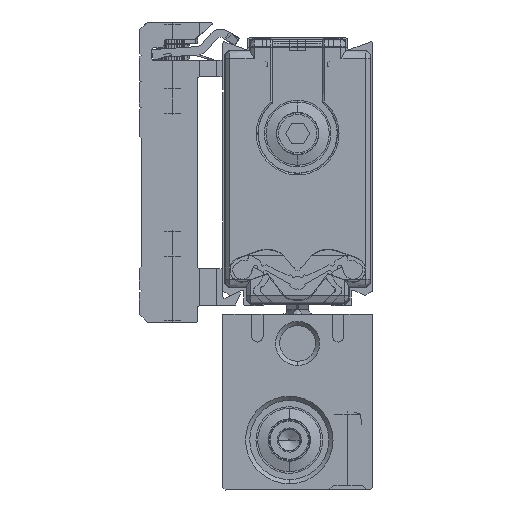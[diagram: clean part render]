
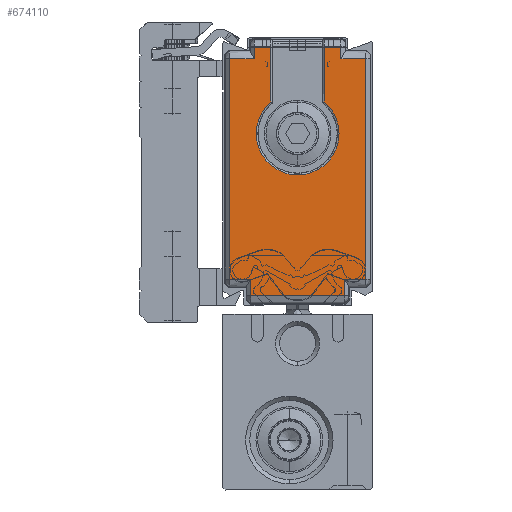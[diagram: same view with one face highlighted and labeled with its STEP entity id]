
A CAD part, left-side view. The second image highlights one B-rep face of the part: STEP entity #674110.
In plain terms, the highlighted planar face has unit normal (-1, 0, 0) as drawn and (0, 0, -1) by its records, which use the part's own axes.
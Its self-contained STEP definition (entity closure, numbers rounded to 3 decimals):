
#633270=CARTESIAN_POINT('',(24.688,30.224,-494.5));
#633280=VERTEX_POINT('',#633270);
#634330=CARTESIAN_POINT('',(31.365,35.75,-494.5));
#634340=DIRECTION('',(0.,-1.,0.));
#634350=VECTOR('',#634340,1.);
#634360=LINE('',#634330,#634350);
#634370=CARTESIAN_POINT('',(31.365,23.776,-494.5));
#634380=VERTEX_POINT('',#634370);
#634390=CARTESIAN_POINT('',(31.365,21.802,-494.5));
#634400=VERTEX_POINT('',#634390);
#634410=EDGE_CURVE('',#634380,#634400,#634360,.T.);
#641420=CARTESIAN_POINT('',(3.435,32.648,-494.5));
#641430=VERTEX_POINT('',#641420);
#641630=CARTESIAN_POINT('',(1.435,32.648,-494.5));
#641640=VERTEX_POINT('',#641630);
#641670=CARTESIAN_POINT('',(3.935,32.648,-494.5));
#641680=CARTESIAN_POINT('',(3.435,32.648,-494.5));
#641690=CARTESIAN_POINT('',(2.935,32.648,-494.5));
#641700=CARTESIAN_POINT('',(2.102,32.648,-494.5));
#641710=CARTESIAN_POINT('',(1.768,32.648,-494.5));
#641720=CARTESIAN_POINT('',(1.435,32.648,-494.5));
#641730=B_SPLINE_CURVE_WITH_KNOTS('',3,(#641670,#641680,#641690,#641700,
#641710,#641720),.UNSPECIFIED.,.F.,.F.,(4,2,4),(37.084,
38.584,39.584),.UNSPECIFIED.);
#641740=EDGE_CURVE('',#641430,#641640,#641730,.T.);
#643080=CARTESIAN_POINT('',(24.688,23.776,-494.5));
#643090=VERTEX_POINT('',#643080);
#644880=CARTESIAN_POINT('',(29.865,35.75,-494.5));
#644890=DIRECTION('',(0.,1.,0.));
#644900=VECTOR('',#644890,1.);
#644910=LINE('',#644880,#644900);
#644920=CARTESIAN_POINT('',(29.865,32.198,-494.5));
#644930=VERTEX_POINT('',#644920);
#644940=CARTESIAN_POINT('',(29.865,35.198,-494.5));
#644950=VERTEX_POINT('',#644940);
#644960=EDGE_CURVE('',#644930,#644950,#644910,.T.);
#646810=CARTESIAN_POINT('',(3.435,35.75,-494.5));
#646820=DIRECTION('',(0.,1.,0.));
#646830=VECTOR('',#646820,1.);
#646840=LINE('',#646810,#646830);
#646850=CARTESIAN_POINT('',(3.435,35.198,-494.5));
#646860=VERTEX_POINT('',#646850);
#646870=EDGE_CURVE('',#641430,#646860,#646840,.T.);
#647300=CARTESIAN_POINT('',(31.365,32.198,-494.5));
#647310=VERTEX_POINT('',#647300);
#647340=CARTESIAN_POINT('',(31.365,30.224,-494.5));
#647350=VERTEX_POINT('',#647340);
#647360=EDGE_CURVE('',#647310,#647350,#634360,.T.);
#648070=CARTESIAN_POINT('',(3.435,18.802,-494.5));
#648080=VERTEX_POINT('',#648070);
#648390=CARTESIAN_POINT('',(3.435,35.75,-494.5));
#648400=DIRECTION('',(0.,-1.,0.));
#648410=VECTOR('',#648400,1.);
#648420=LINE('',#648390,#648410);
#648430=CARTESIAN_POINT('',(3.435,21.352,-494.5));
#648440=VERTEX_POINT('',#648430);
#648450=EDGE_CURVE('',#648440,#648080,#648420,.T.);
#649300=CARTESIAN_POINT('',(1.435,21.352,-494.5));
#649310=VERTEX_POINT('',#649300);
#650780=CARTESIAN_POINT('',(3.935,21.352,-494.5));
#650790=CARTESIAN_POINT('',(3.435,21.352,-494.5));
#650800=CARTESIAN_POINT('',(2.935,21.352,-494.5));
#650810=CARTESIAN_POINT('',(2.102,21.352,-494.5));
#650820=CARTESIAN_POINT('',(1.768,21.352,-494.5));
#650830=CARTESIAN_POINT('',(1.435,21.352,-494.5));
#650840=B_SPLINE_CURVE_WITH_KNOTS('',3,(#650780,#650790,#650800,#650810,
#650820,#650830),.UNSPECIFIED.,.F.,.F.,(4,2,4),(37.084,
38.584,39.584),.UNSPECIFIED.);
#650850=EDGE_CURVE('',#648440,#649310,#650840,.T.);
#652030=CARTESIAN_POINT('',(1.435,35.75,-494.5));
#652040=DIRECTION('',(0.,1.,0.));
#652050=VECTOR('',#652040,1.);
#652060=LINE('',#652030,#652050);
#652070=EDGE_CURVE('',#649310,#641640,#652060,.T.);
#655640=CARTESIAN_POINT('',(0.15,30.224,-494.5));
#655650=DIRECTION('',(1.,0.,0.));
#655660=VECTOR('',#655650,1.);
#655670=LINE('',#655640,#655660);
#655680=EDGE_CURVE('',#633280,#647350,#655670,.T.);
#659420=CARTESIAN_POINT('',(29.865,21.802,-494.5));
#659430=VERTEX_POINT('',#659420);
#659480=CARTESIAN_POINT('',(29.365,21.802,-494.5));
#659490=CARTESIAN_POINT('',(29.782,21.802,-494.5));
#659500=CARTESIAN_POINT('',(30.198,21.802,-494.5));
#659510=CARTESIAN_POINT('',(30.865,21.802,-494.5));
#659520=CARTESIAN_POINT('',(31.115,21.802,-494.5));
#659530=CARTESIAN_POINT('',(31.365,21.802,-494.5));
#659540=B_SPLINE_CURVE_WITH_KNOTS('',3,(#659480,#659490,#659500,#659510,
#659520,#659530),.UNSPECIFIED.,.F.,.F.,(4,2,4),(37.587,
38.837,39.587),.UNSPECIFIED.);
#659550=EDGE_CURVE('',#659430,#634400,#659540,.T.);
#659880=CARTESIAN_POINT('',(29.365,32.198,-494.5));
#659890=CARTESIAN_POINT('',(29.782,32.198,-494.5));
#659900=CARTESIAN_POINT('',(30.198,32.198,-494.5));
#659910=CARTESIAN_POINT('',(30.865,32.198,-494.5));
#659920=CARTESIAN_POINT('',(31.115,32.198,-494.5));
#659930=CARTESIAN_POINT('',(31.365,32.198,-494.5));
#659940=B_SPLINE_CURVE_WITH_KNOTS('',3,(#659880,#659890,#659900,#659910,
#659920,#659930),.UNSPECIFIED.,.F.,.F.,(4,2,4),(37.587,
38.837,39.587),.UNSPECIFIED.);
#659950=EDGE_CURVE('',#644930,#647310,#659940,.T.);
#661090=CARTESIAN_POINT('',(29.865,18.802,-494.5));
#661100=VERTEX_POINT('',#661090);
#661130=CARTESIAN_POINT('',(3.435,18.802,-494.5));
#661140=CARTESIAN_POINT('',(7.84,18.802,-494.5));
#661150=CARTESIAN_POINT('',(12.245,18.802,-494.5));
#661160=CARTESIAN_POINT('',(21.055,18.802,-494.5));
#661170=CARTESIAN_POINT('',(25.46,18.802,-494.5));
#661180=CARTESIAN_POINT('',(29.865,18.802,-494.5));
#661190=B_SPLINE_CURVE_WITH_KNOTS('',3,(#661130,#661140,#661150,#661160,
#661170,#661180),.UNSPECIFIED.,.F.,.F.,(4,2,4),(24.334,
37.549,50.764),.UNSPECIFIED.);
#661200=EDGE_CURVE('',#648080,#661100,#661190,.T.);
#667600=CARTESIAN_POINT('',(29.865,35.75,-494.5));
#667610=DIRECTION('',(0.,-1.,0.));
#667620=VECTOR('',#667610,1.);
#667630=LINE('',#667600,#667620);
#667640=EDGE_CURVE('',#659430,#661100,#667630,.T.);
#668830=CARTESIAN_POINT('',(3.435,35.198,-494.5));
#668840=CARTESIAN_POINT('',(7.84,35.198,-494.5));
#668850=CARTESIAN_POINT('',(12.245,35.198,-494.5));
#668860=CARTESIAN_POINT('',(21.055,35.198,-494.5));
#668870=CARTESIAN_POINT('',(25.46,35.198,-494.5));
#668880=CARTESIAN_POINT('',(29.865,35.198,-494.5));
#668890=B_SPLINE_CURVE_WITH_KNOTS('',3,(#668830,#668840,#668850,#668860,
#668870,#668880),.UNSPECIFIED.,.F.,.F.,(4,2,4),(24.308,
37.523,50.738),.UNSPECIFIED.);
#668900=EDGE_CURVE('',#646860,#644950,#668890,.T.);
#673600=CARTESIAN_POINT('',(20.9,27.,-494.5));
#673610=DIRECTION('',(0.,0.,-1.));
#673620=DIRECTION('',(0.,1.,0.));
#673630=AXIS2_PLACEMENT_3D('',#673600,#673610,#673620);
#673640=CIRCLE('',#673630,4.974);
#673650=EDGE_CURVE('',#643090,#633280,#673640,.T.);
#673830=CARTESIAN_POINT('',(16.65,27.,-494.5));
#673840=DIRECTION('',(0.,0.,1.));
#673850=DIRECTION('',(0.,1.,0.));
#673860=AXIS2_PLACEMENT_3D('',#673830,#673840,#673850);
#673870=PLANE('',#673860);
#673880=ORIENTED_EDGE('',*,*,#673650,.F.);
#673890=ORIENTED_EDGE('',*,*,#655680,.F.);
#673900=ORIENTED_EDGE('',*,*,#647360,.T.);
#673910=ORIENTED_EDGE('',*,*,#659950,.T.);
#673920=ORIENTED_EDGE('',*,*,#644960,.F.);
#673930=ORIENTED_EDGE('',*,*,#668900,.T.);
#673940=ORIENTED_EDGE('',*,*,#646870,.T.);
#673950=ORIENTED_EDGE('',*,*,#641740,.F.);
#673960=ORIENTED_EDGE('',*,*,#652070,.T.);
#673970=ORIENTED_EDGE('',*,*,#650850,.T.);
#673980=ORIENTED_EDGE('',*,*,#648450,.F.);
#673990=ORIENTED_EDGE('',*,*,#661200,.F.);
#674000=ORIENTED_EDGE('',*,*,#667640,.T.);
#674010=ORIENTED_EDGE('',*,*,#659550,.F.);
#674020=ORIENTED_EDGE('',*,*,#634410,.T.);
#674030=CARTESIAN_POINT('',(0.15,23.776,-494.5));
#674040=DIRECTION('',(-1.,0.,0.));
#674050=VECTOR('',#674040,1.);
#674060=LINE('',#674030,#674050);
#674070=EDGE_CURVE('',#634380,#643090,#674060,.T.);
#674080=ORIENTED_EDGE('',*,*,#674070,.F.);
#674090=EDGE_LOOP('',(#674080,#674020,#674010,#674000,#673990,#673980,
#673970,#673960,#673950,#673940,#673930,#673920,#673910,#673900,#673890,
#673880));
#674100=FACE_OUTER_BOUND('',#674090,.T.);
#674110=ADVANCED_FACE('',(#674100),#673870,.F.);
